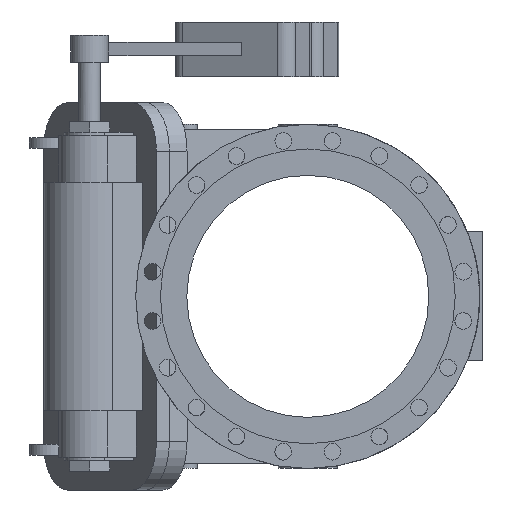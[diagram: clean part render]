
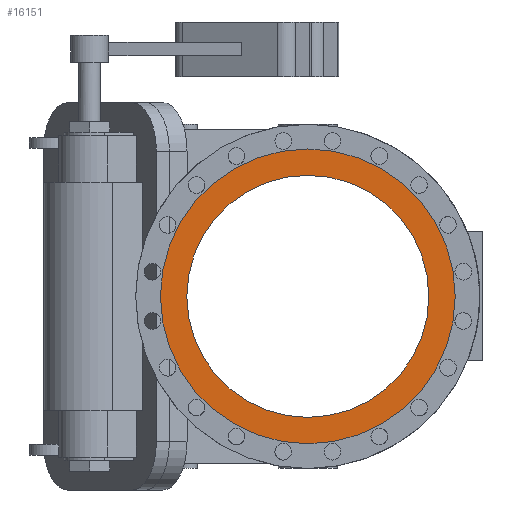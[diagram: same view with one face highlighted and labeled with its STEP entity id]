
A CAD part, left-side view. The second image highlights one B-rep face of the part: STEP entity #16151.
In plain terms, the highlighted planar face has unit normal (-1, 0, 0).
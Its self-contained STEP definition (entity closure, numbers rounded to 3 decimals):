
#1745 = FACE_OUTER_BOUND ( 'NONE', #10341, .T. ) ;
#1752 = FACE_BOUND ( 'NONE', #10154, .T. ) ;
#2037 = VERTEX_POINT ( 'NONE', #8927 ) ;
#2044 = VERTEX_POINT ( 'NONE', #8934 ) ;
#6288 = AXIS2_PLACEMENT_3D ( 'NONE', #19276, #19280, #19281 ) ;
#7958 = EDGE_CURVE ( 'NONE', #2037, #2037, #15282, .T. ) ;
#7968 = EDGE_CURVE ( 'NONE', #2044, #2044, #15300, .T. ) ;
#8927 = CARTESIAN_POINT ( 'NONE',  ( -1000., 0., 225. ) ) ;
#8934 = CARTESIAN_POINT ( 'NONE',  ( -1000., 0., 274. ) ) ;
#10154 = EDGE_LOOP ( 'NONE', ( #12382 ) ) ;
#10341 = EDGE_LOOP ( 'NONE', ( #12379 ) ) ;
#12379 = ORIENTED_EDGE ( 'NONE', *, *, #7968, .T. ) ;
#12382 = ORIENTED_EDGE ( 'NONE', *, *, #7958, .F. ) ;
#15282 = CIRCLE ( 'NONE', #16322, 225. ) ;
#15300 = CIRCLE ( 'NONE', #16330, 274. ) ;
#16151 = ADVANCED_FACE ( 'NONE', ( #1745, #1752 ), #19278, .F. ) ;
#16322 = AXIS2_PLACEMENT_3D ( 'NONE', #21023, #21024, #21025 ) ;
#16330 = AXIS2_PLACEMENT_3D ( 'NONE', #21053, #21054, #21055 ) ;
#19276 = CARTESIAN_POINT ( 'NONE',  ( -1000., 0., 0. ) ) ;
#19278 = PLANE ( 'NONE',  #6288 ) ;
#19280 = DIRECTION ( 'NONE',  ( 1., 0., 0. ) ) ;
#19281 = DIRECTION ( 'NONE',  ( 0., 0., -1. ) ) ;
#21023 = CARTESIAN_POINT ( 'NONE',  ( -1000., 0., 0. ) ) ;
#21024 = DIRECTION ( 'NONE',  ( -1., 0., 0. ) ) ;
#21025 = DIRECTION ( 'NONE',  ( 0., 0., 1. ) ) ;
#21053 = CARTESIAN_POINT ( 'NONE',  ( -1000., 0., 0. ) ) ;
#21054 = DIRECTION ( 'NONE',  ( -1., 0., 0. ) ) ;
#21055 = DIRECTION ( 'NONE',  ( 0., 0., 1. ) ) ;
